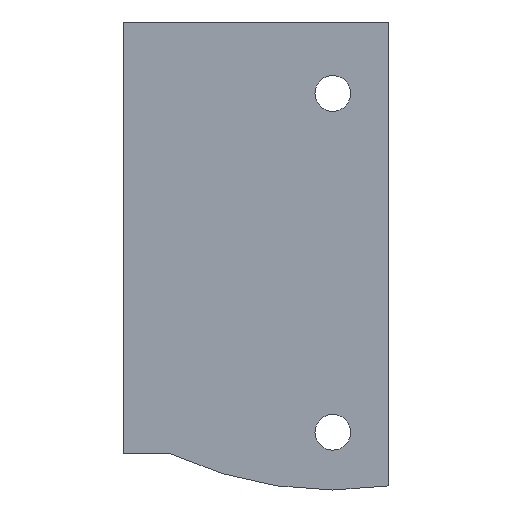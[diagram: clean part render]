
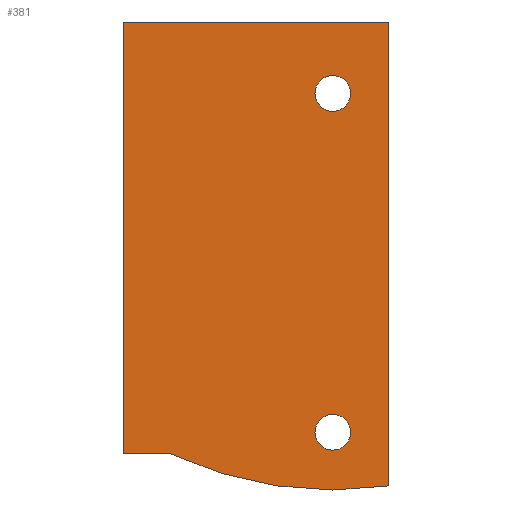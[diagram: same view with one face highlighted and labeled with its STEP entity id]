
A CAD part, front view. The second image highlights one B-rep face of the part: STEP entity #381.
In plain terms, the highlighted planar face has unit normal (0, -1, 0).
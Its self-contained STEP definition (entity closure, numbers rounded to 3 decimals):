
#28=FACE_BOUND('',#78,.T.);
#29=FACE_BOUND('',#79,.T.);
#33=CIRCLE('',#409,2.);
#35=CIRCLE('',#412,2.);
#39=CIRCLE('',#424,42.718);
#50=FACE_OUTER_BOUND('',#77,.T.);
#77=EDGE_LOOP('',(#318,#319,#320,#321,#322));
#78=EDGE_LOOP('',(#323));
#79=EDGE_LOOP('',(#324));
#90=LINE('',#542,#131);
#120=LINE('',#618,#161);
#122=LINE('',#622,#163);
#123=LINE('',#625,#164);
#131=VECTOR('',#439,10.);
#161=VECTOR('',#505,10.);
#163=VECTOR('',#509,10.);
#164=VECTOR('',#512,10.);
#172=VERTEX_POINT('',#539);
#173=VERTEX_POINT('',#541);
#185=VERTEX_POINT('',#567);
#187=VERTEX_POINT('',#573);
#201=VERTEX_POINT('',#617);
#202=VERTEX_POINT('',#621);
#203=VERTEX_POINT('',#623);
#206=EDGE_CURVE('',#172,#173,#90,.T.);
#220=EDGE_CURVE('',#185,#185,#33,.T.);
#223=EDGE_CURVE('',#187,#187,#35,.T.);
#245=EDGE_CURVE('',#173,#201,#120,.T.);
#247=EDGE_CURVE('',#202,#172,#122,.T.);
#248=EDGE_CURVE('',#202,#203,#39,.T.);
#249=EDGE_CURVE('',#203,#201,#123,.T.);
#318=ORIENTED_EDGE('',*,*,#247,.F.);
#319=ORIENTED_EDGE('',*,*,#248,.T.);
#320=ORIENTED_EDGE('',*,*,#249,.T.);
#321=ORIENTED_EDGE('',*,*,#245,.F.);
#322=ORIENTED_EDGE('',*,*,#206,.F.);
#323=ORIENTED_EDGE('',*,*,#220,.T.);
#324=ORIENTED_EDGE('',*,*,#223,.T.);
#365=PLANE('',#423);
#381=ADVANCED_FACE('',(#50,#28,#29),#365,.F.);
#409=AXIS2_PLACEMENT_3D('',#569,#458,#459);
#412=AXIS2_PLACEMENT_3D('',#575,#465,#466);
#423=AXIS2_PLACEMENT_3D('',#620,#507,#508);
#424=AXIS2_PLACEMENT_3D('',#624,#510,#511);
#439=DIRECTION('',(0.,0.,1.));
#458=DIRECTION('center_axis',(0.,1.,0.));
#459=DIRECTION('ref_axis',(-1.,0.,0.));
#465=DIRECTION('center_axis',(0.,1.,0.));
#466=DIRECTION('ref_axis',(-1.,0.,0.));
#505=DIRECTION('',(1.,0.,0.));
#507=DIRECTION('center_axis',(0.,1.,0.));
#508=DIRECTION('ref_axis',(0.,0.,1.));
#509=DIRECTION('',(-1.,0.,0.));
#510=DIRECTION('center_axis',(0.,-1.,0.));
#511=DIRECTION('ref_axis',(0.,0.,1.));
#512=DIRECTION('',(0.,0.,1.));
#539=CARTESIAN_POINT('',(-54.5,-12.,-11.365));
#541=CARTESIAN_POINT('',(-54.5,-12.,36.943));
#542=CARTESIAN_POINT('',(-54.5,-12.,6.849));
#567=CARTESIAN_POINT('',(-29.05,-12.,28.943));
#569=CARTESIAN_POINT('Origin',(-31.05,-12.,28.943));
#573=CARTESIAN_POINT('',(-29.05,-12.,-9.));
#575=CARTESIAN_POINT('Origin',(-31.05,-12.,-9.));
#617=CARTESIAN_POINT('',(-24.8,-12.,36.943));
#618=CARTESIAN_POINT('',(-49.3,-12.,36.943));
#620=CARTESIAN_POINT('Origin',(-32.019,-12.,9.798));
#621=CARTESIAN_POINT('',(-49.3,-12.,-11.365));
#622=CARTESIAN_POINT('',(-54.,-12.,-11.365));
#623=CARTESIAN_POINT('',(-24.8,-12.,-15.));
#624=CARTESIAN_POINT('Origin',(-31.05,-12.,27.258));
#625=CARTESIAN_POINT('',(-24.8,-12.,9.885));
